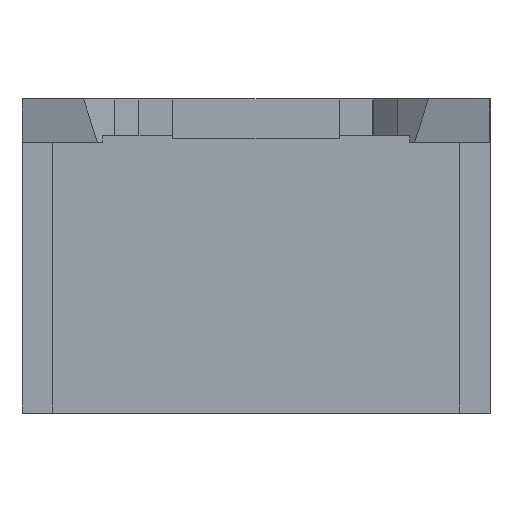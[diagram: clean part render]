
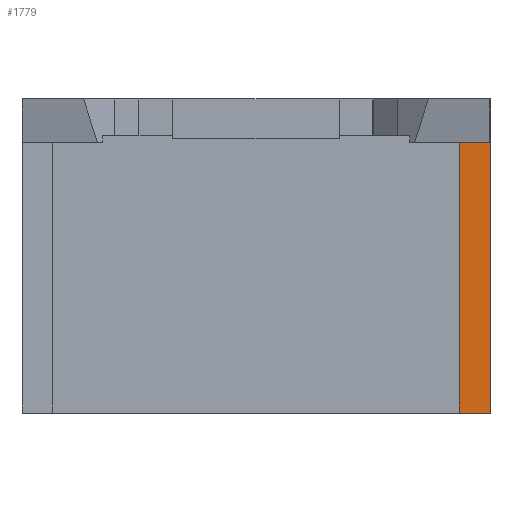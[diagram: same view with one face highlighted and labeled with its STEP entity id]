
A CAD part, left-side view. The second image highlights one B-rep face of the part: STEP entity #1779.
In plain terms, the highlighted planar face has unit normal (-1, 0, 0).
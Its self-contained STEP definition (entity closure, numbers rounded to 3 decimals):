
#42 = VERTEX_POINT('',#43);
#43 = CARTESIAN_POINT('',(28.5,-38.,-45.));
#50 = PLANE('',#51);
#51 = AXIS2_PLACEMENT_3D('',#52,#53,#54);
#52 = CARTESIAN_POINT('',(35.616,-38.,-11.261));
#53 = DIRECTION('',(-0.,-1.,-0.));
#54 = DIRECTION('',(0.,0.,-1.));
#62 = PLANE('',#63);
#63 = AXIS2_PLACEMENT_3D('',#64,#65,#66);
#64 = CARTESIAN_POINT('',(63.172,0.,-45.));
#65 = DIRECTION('',(-0.,-0.,-1.));
#66 = DIRECTION('',(-1.,0.,0.));
#159 = VERTEX_POINT('',#160);
#160 = CARTESIAN_POINT('',(28.5,-38.,-1.));
#174 = PLANE('',#175);
#175 = AXIS2_PLACEMENT_3D('',#176,#177,#178);
#176 = CARTESIAN_POINT('',(37.14,0.,-1.));
#177 = DIRECTION('',(0.,0.,-1.));
#178 = DIRECTION('',(0.,-1.,0.));
#186 = EDGE_CURVE('',#159,#42,#187,.T.);
#187 = SURFACE_CURVE('',#188,(#192,#199),.PCURVE_S1.);
#188 = LINE('',#189,#190);
#189 = CARTESIAN_POINT('',(28.5,-38.,-1.));
#190 = VECTOR('',#191,1.);
#191 = DIRECTION('',(0.,0.,-1.));
#192 = PCURVE('',#50,#193);
#193 = DEFINITIONAL_REPRESENTATION('',(#194),#198);
#194 = LINE('',#195,#196);
#195 = CARTESIAN_POINT('',(-10.261,-7.116));
#196 = VECTOR('',#197,1.);
#197 = DIRECTION('',(1.,0.));
#198 = ( GEOMETRIC_REPRESENTATION_CONTEXT(2) 
PARAMETRIC_REPRESENTATION_CONTEXT() REPRESENTATION_CONTEXT('2D SPACE',''
  ) );
#199 = PCURVE('',#200,#205);
#200 = PLANE('',#201);
#201 = AXIS2_PLACEMENT_3D('',#202,#203,#204);
#202 = CARTESIAN_POINT('',(28.5,-38.,-1.));
#203 = DIRECTION('',(1.,0.,0.));
#204 = DIRECTION('',(0.,1.,0.));
#205 = DEFINITIONAL_REPRESENTATION('',(#206),#210);
#206 = LINE('',#207,#208);
#207 = CARTESIAN_POINT('',(0.,0.));
#208 = VECTOR('',#209,1.);
#209 = DIRECTION('',(0.,-1.));
#210 = ( GEOMETRIC_REPRESENTATION_CONTEXT(2) 
PARAMETRIC_REPRESENTATION_CONTEXT() REPRESENTATION_CONTEXT('2D SPACE',''
  ) );
#1014 = EDGE_CURVE('',#42,#1015,#1017,.T.);
#1015 = VERTEX_POINT('',#1016);
#1016 = CARTESIAN_POINT('',(28.5,-33.,-45.));
#1017 = SURFACE_CURVE('',#1018,(#1022,#1029),.PCURVE_S1.);
#1018 = LINE('',#1019,#1020);
#1019 = CARTESIAN_POINT('',(28.5,-38.,-45.));
#1020 = VECTOR('',#1021,1.);
#1021 = DIRECTION('',(0.,1.,0.));
#1022 = PCURVE('',#62,#1023);
#1023 = DEFINITIONAL_REPRESENTATION('',(#1024),#1028);
#1024 = LINE('',#1025,#1026);
#1025 = CARTESIAN_POINT('',(34.672,-38.));
#1026 = VECTOR('',#1027,1.);
#1027 = DIRECTION('',(0.,1.));
#1028 = ( GEOMETRIC_REPRESENTATION_CONTEXT(2) 
PARAMETRIC_REPRESENTATION_CONTEXT() REPRESENTATION_CONTEXT('2D SPACE',''
  ) );
#1029 = PCURVE('',#200,#1030);
#1030 = DEFINITIONAL_REPRESENTATION('',(#1031),#1035);
#1031 = LINE('',#1032,#1033);
#1032 = CARTESIAN_POINT('',(0.,-44.));
#1033 = VECTOR('',#1034,1.);
#1034 = DIRECTION('',(1.,0.));
#1035 = ( GEOMETRIC_REPRESENTATION_CONTEXT(2) 
PARAMETRIC_REPRESENTATION_CONTEXT() REPRESENTATION_CONTEXT('2D SPACE',''
  ) );
#1053 = PLANE('',#1054);
#1054 = AXIS2_PLACEMENT_3D('',#1055,#1056,#1057);
#1055 = CARTESIAN_POINT('',(28.5,-33.,-1.));
#1056 = DIRECTION('',(0.,-1.,0.));
#1057 = DIRECTION('',(1.,0.,0.));
#1779 = ADVANCED_FACE('',(#1780),#200,.F.);
#1780 = FACE_BOUND('',#1781,.F.);
#1781 = EDGE_LOOP('',(#1782,#1783,#1784,#1807));
#1782 = ORIENTED_EDGE('',*,*,#186,.T.);
#1783 = ORIENTED_EDGE('',*,*,#1014,.T.);
#1784 = ORIENTED_EDGE('',*,*,#1785,.F.);
#1785 = EDGE_CURVE('',#1786,#1015,#1788,.T.);
#1786 = VERTEX_POINT('',#1787);
#1787 = CARTESIAN_POINT('',(28.5,-33.,-1.));
#1788 = SURFACE_CURVE('',#1789,(#1793,#1800),.PCURVE_S1.);
#1789 = LINE('',#1790,#1791);
#1790 = CARTESIAN_POINT('',(28.5,-33.,-1.));
#1791 = VECTOR('',#1792,1.);
#1792 = DIRECTION('',(0.,0.,-1.));
#1793 = PCURVE('',#200,#1794);
#1794 = DEFINITIONAL_REPRESENTATION('',(#1795),#1799);
#1795 = LINE('',#1796,#1797);
#1796 = CARTESIAN_POINT('',(5.,0.));
#1797 = VECTOR('',#1798,1.);
#1798 = DIRECTION('',(0.,-1.));
#1799 = ( GEOMETRIC_REPRESENTATION_CONTEXT(2) 
PARAMETRIC_REPRESENTATION_CONTEXT() REPRESENTATION_CONTEXT('2D SPACE',''
  ) );
#1800 = PCURVE('',#1053,#1801);
#1801 = DEFINITIONAL_REPRESENTATION('',(#1802),#1806);
#1802 = LINE('',#1803,#1804);
#1803 = CARTESIAN_POINT('',(0.,0.));
#1804 = VECTOR('',#1805,1.);
#1805 = DIRECTION('',(0.,-1.));
#1806 = ( GEOMETRIC_REPRESENTATION_CONTEXT(2) 
PARAMETRIC_REPRESENTATION_CONTEXT() REPRESENTATION_CONTEXT('2D SPACE',''
  ) );
#1807 = ORIENTED_EDGE('',*,*,#1808,.F.);
#1808 = EDGE_CURVE('',#159,#1786,#1809,.T.);
#1809 = SURFACE_CURVE('',#1810,(#1814,#1821),.PCURVE_S1.);
#1810 = LINE('',#1811,#1812);
#1811 = CARTESIAN_POINT('',(28.5,-38.,-1.));
#1812 = VECTOR('',#1813,1.);
#1813 = DIRECTION('',(0.,1.,0.));
#1814 = PCURVE('',#200,#1815);
#1815 = DEFINITIONAL_REPRESENTATION('',(#1816),#1820);
#1816 = LINE('',#1817,#1818);
#1817 = CARTESIAN_POINT('',(0.,0.));
#1818 = VECTOR('',#1819,1.);
#1819 = DIRECTION('',(1.,0.));
#1820 = ( GEOMETRIC_REPRESENTATION_CONTEXT(2) 
PARAMETRIC_REPRESENTATION_CONTEXT() REPRESENTATION_CONTEXT('2D SPACE',''
  ) );
#1821 = PCURVE('',#174,#1822);
#1822 = DEFINITIONAL_REPRESENTATION('',(#1823),#1827);
#1823 = LINE('',#1824,#1825);
#1824 = CARTESIAN_POINT('',(38.,8.64));
#1825 = VECTOR('',#1826,1.);
#1826 = DIRECTION('',(-1.,0.));
#1827 = ( GEOMETRIC_REPRESENTATION_CONTEXT(2) 
PARAMETRIC_REPRESENTATION_CONTEXT() REPRESENTATION_CONTEXT('2D SPACE',''
  ) );
